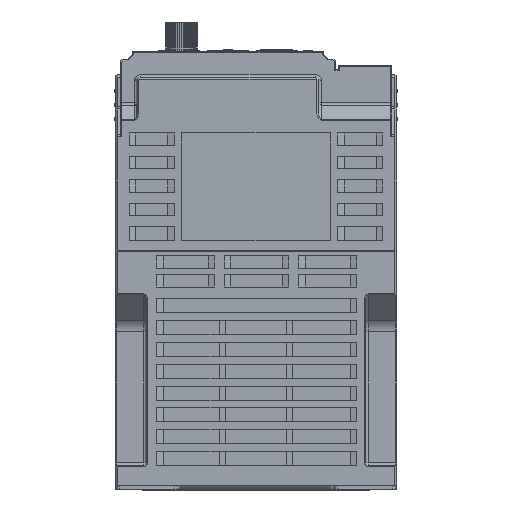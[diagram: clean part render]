
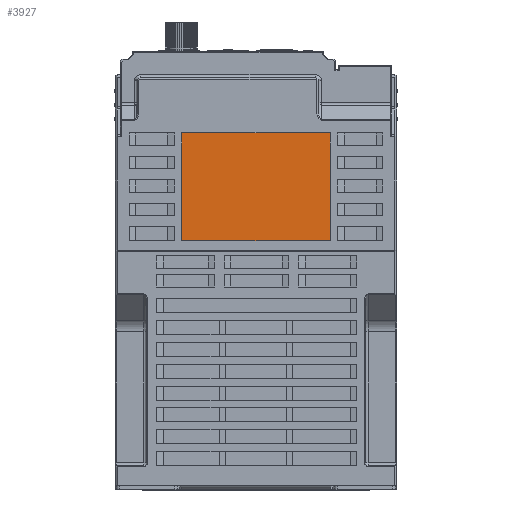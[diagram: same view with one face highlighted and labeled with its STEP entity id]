
A CAD part, top view. The second image highlights one B-rep face of the part: STEP entity #3927.
In plain terms, the highlighted planar face has unit normal (0, 0, 1).
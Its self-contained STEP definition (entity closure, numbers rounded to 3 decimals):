
#3927=ADVANCED_FACE('',(#11539),#123594,.T.);
#11539=FACE_OUTER_BOUND('',#19406,.T.);
#19406=EDGE_LOOP('',(#40294,#40295,#40296,#40297));
#40294=ORIENTED_EDGE('',*,*,#71776,.F.);
#40295=ORIENTED_EDGE('',*,*,#71779,.F.);
#40296=ORIENTED_EDGE('',*,*,#71780,.F.);
#40297=ORIENTED_EDGE('',*,*,#71773,.F.);
#71773=EDGE_CURVE('',#111135,#111136,#95821,.T.);
#71776=EDGE_CURVE('',#111137,#111135,#95824,.T.);
#71779=EDGE_CURVE('',#111138,#111137,#95827,.T.);
#71780=EDGE_CURVE('',#111136,#111138,#95828,.T.);
#95821=B_SPLINE_CURVE_WITH_KNOTS('',1,(#185662,#185663),.UNSPECIFIED.,.F.,
 .F.,(2,2),(-34.5,0.),.UNSPECIFIED.);
#95824=B_SPLINE_CURVE_WITH_KNOTS('',1,(#185668,#185669),.UNSPECIFIED.,.F.,
 .F.,(2,2),(-47.5,0.),.UNSPECIFIED.);
#95827=B_SPLINE_CURVE_WITH_KNOTS('',1,(#185674,#185675),.UNSPECIFIED.,.F.,
 .F.,(2,2),(-34.5,0.),.UNSPECIFIED.);
#95828=B_SPLINE_CURVE_WITH_KNOTS('',1,(#185676,#185677),.UNSPECIFIED.,.F.,
 .F.,(2,2),(-47.5,0.),.UNSPECIFIED.);
#111135=VERTEX_POINT('',#176860);
#111136=VERTEX_POINT('',#176861);
#111137=VERTEX_POINT('',#176862);
#111138=VERTEX_POINT('',#176863);
#123594=PLANE('',#129945);
#129945=AXIS2_PLACEMENT_3D('',#174476,#139496,$);
#139496=DIRECTION('',(0.,0.,1.));
#174476=CARTESIAN_POINT('',(251.458,53.829,171.7));
#176860=CARTESIAN_POINT('',(246.463,50.135,171.7));
#176861=CARTESIAN_POINT('',(246.463,15.635,171.7));
#176862=CARTESIAN_POINT('',(198.963,50.135,171.7));
#176863=CARTESIAN_POINT('',(198.963,15.635,171.7));
#185662=CARTESIAN_POINT('',(246.463,50.135,171.7));
#185663=CARTESIAN_POINT('',(246.463,15.635,171.7));
#185668=CARTESIAN_POINT('',(198.963,50.135,171.7));
#185669=CARTESIAN_POINT('',(246.463,50.135,171.7));
#185674=CARTESIAN_POINT('',(198.963,15.635,171.7));
#185675=CARTESIAN_POINT('',(198.963,50.135,171.7));
#185676=CARTESIAN_POINT('',(246.463,15.635,171.7));
#185677=CARTESIAN_POINT('',(198.963,15.635,171.7));
